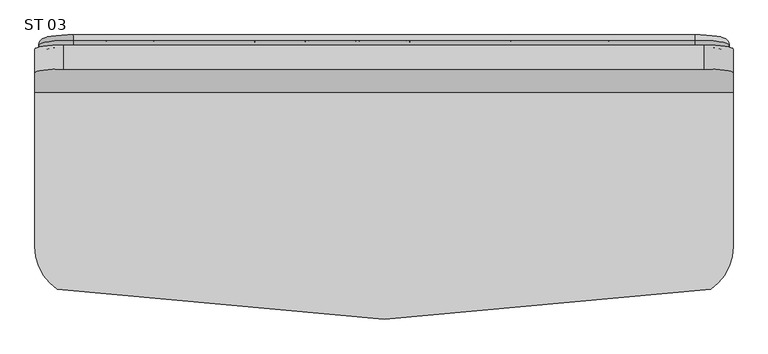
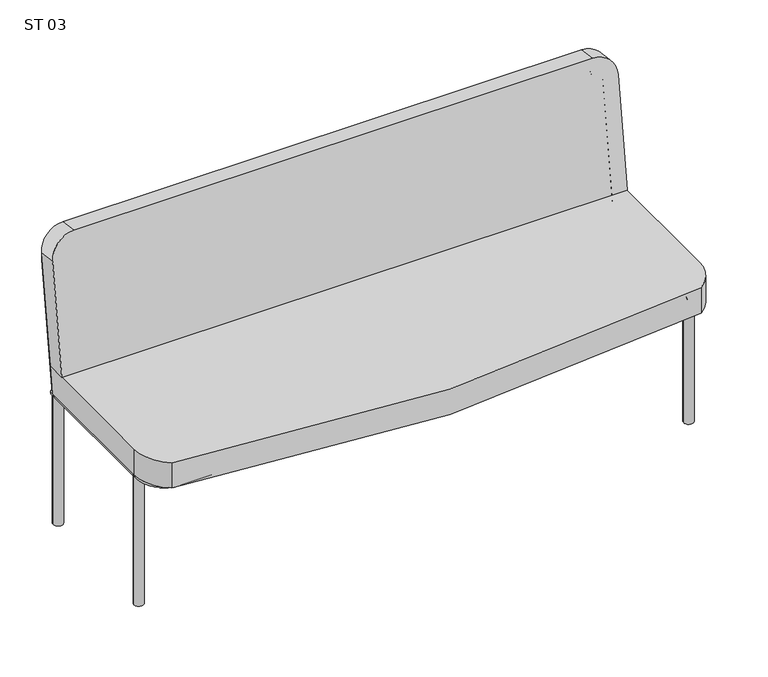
"""IFC4 building model written with IfcOpenShell, lengths in millimetres: furniture geometry, Mobiliário_Mobiliário de Escritório_Sofá - ST 03_Marelli : ST 03."""

import ifcopenshell
import ifcopenshell.guid

model = None  # the IFC model being written
_history = None  # IfcOwnerHistory: only IFC2X3 demands one
_inside = {}  # id of a spatial element -> (the spatial element, [elements in it])
_under = {}  # id of a project, library or spatial element -> (it, [spatial elements below it])
_declared = {}  # id of a project -> (the project, [libraries it declares])
_typed = {}  # id of a type object -> (the type object, [elements of that type])
_made_of = {}  # id of a material, layer set ... -> (it, [elements and type objects made of it])


def new_model(schema):
    """Start an empty IFC model of exactly this schema.

    Asked for "IFC4X3", IfcOpenShell would pick the latest addendum, in which some entities
    have other attributes; the version numbers below select the first issue.
    IFC2X3 requires an IfcOwnerHistory on every rooted entity: one is made here for all.
    """
    global model, _history
    if schema == "IFC4X3":
        model = ifcopenshell.file(schema_version=(4, 3, 0, 0))
    else:
        model = ifcopenshell.file(schema=schema)
    _inside.clear()
    _under.clear()
    _declared.clear()
    _typed.clear()
    _made_of.clear()
    _history = None
    if model.schema == "IFC2X3":
        org = make("IfcOrganization", Name="unknown")
        user = make(
            "IfcPersonAndOrganization",
            ThePerson=make("IfcPerson", FamilyName="unknown"),
            TheOrganization=org,
        )
        app = make(
            "IfcApplication",
            ApplicationDeveloper=org,
            Version="unknown",
            ApplicationFullName="unknown",
            ApplicationIdentifier="unknown",
        )
        _history = make(
            "IfcOwnerHistory",
            OwningUser=user,
            OwningApplication=app,
            ChangeAction="ADDED",
            CreationDate=0,
        )
    return model


def make(cls, **values):
    """One entity of the class cls with the attributes given. An attribute that is None is left unset."""
    return model.create_entity(
        cls, **{name: value for name, value in values.items() if value is not None}
    )


def rooted(cls, **values):
    """An entity with a GlobalId (a new one), such as an element, a storey or a relation."""
    return make(cls, GlobalId=ifcopenshell.guid.new(), OwnerHistory=_history, **values)


def si_unit(unit_type, name, prefix=None):
    """IfcSIUnit, for example si_unit("LENGTHUNIT", "METRE", prefix="MILLI")."""
    return make("IfcSIUnit", UnitType=unit_type, Prefix=prefix, Name=name)


def assignment(units):
    """IfcUnitAssignment: the units of a project."""
    return None if units is None else make("IfcUnitAssignment", Units=units)


def point(xyz):
    """IfcCartesianPoint."""
    return None if xyz is None else make("IfcCartesianPoint", Coordinates=xyz)


def direction(xyz):
    """IfcDirection."""
    return None if xyz is None else make("IfcDirection", DirectionRatios=xyz)


def frame(location, z_axis=None, x_axis=None):
    """IfcAxis2Placement3D, a coordinate frame: its origin and axes. An axis left out is left unset."""
    return make(
        "IfcAxis2Placement3D",
        Location=point(location),
        Axis=direction(z_axis),
        RefDirection=direction(x_axis),
    )


def frame_2d(location, x_axis=None):
    """IfcAxis2Placement2D, a coordinate frame in the plane: its origin and x axis."""
    return make(
        "IfcAxis2Placement2D", Location=point(location), RefDirection=direction(x_axis)
    )


def origin():
    """The frame at (0, 0, 0) with its axes left unset."""
    return frame((0.0, 0.0, 0.0))


def origin_with_axes():
    """The frame at (0, 0, 0) with the z axis (0, 0, 1) and the x axis (1, 0, 0) written out."""
    return frame((0.0, 0.0, 0.0), z_axis=(0.0, 0.0, 1.0), x_axis=(1.0, 0.0, 0.0))


def place(relative_to, where):
    """IfcLocalPlacement: puts the frame where relative to a parent placement (None: the world)."""
    return make(
        "IfcLocalPlacement", PlacementRelTo=relative_to, RelativePlacement=where
    )


def context(
    kind, dimensions, precision=None, world=None, true_north=None, identifier=None
):
    """IfcGeometricRepresentationContext, for example the 3D "Model" context."""
    return make(
        "IfcGeometricRepresentationContext",
        ContextIdentifier=identifier,
        ContextType=kind,
        CoordinateSpaceDimension=dimensions,
        Precision=precision,
        WorldCoordinateSystem=world,
        TrueNorth=true_north,
    )


def project(units=None, contexts=None):
    """IfcProject with its units and contexts."""
    return rooted(
        "IfcProject",
        Name="project",
        RepresentationContexts=contexts,
        UnitsInContext=assignment(units),
    )


def spatial(cls, under=None, at=None, **own):
    """A site, building, storey or space (cls), placed at a placement, below another one or the project."""
    s = rooted(cls, ObjectPlacement=at, **own)
    if under is not None:
        _under.setdefault(under.id(), (under, []))[1].append(s)
    return s


def circle_curve(where, radius):
    """IfcCircle in the frame where."""
    return make("IfcCircle", Position=where, Radius=radius)


def ellipse_curve(where, semi_axis1, semi_axis2):
    """IfcEllipse in the frame where."""
    return make(
        "IfcEllipse", Position=where, SemiAxis1=semi_axis1, SemiAxis2=semi_axis2
    )


def trimmed(basis, trim1, trim2, sense, master):
    """IfcTrimmedCurve: the piece of a basis curve between two trims."""
    return make(
        "IfcTrimmedCurve",
        BasisCurve=basis,
        Trim1=trim1,
        Trim2=trim2,
        SenseAgreement=sense,
        MasterRepresentation=master,
    )


def segment(curve, same_sense, transition):
    """IfcCompositeCurveSegment."""
    return make(
        "IfcCompositeCurveSegment",
        Transition=transition,
        SameSense=same_sense,
        ParentCurve=curve,
    )


def composite_curve(segments, self_intersect=None):
    """IfcCompositeCurve: segments joined end to end."""
    return make("IfcCompositeCurve", Segments=segments, SelfIntersect=self_intersect)


def outline(outer, holes=None, kind="AREA"):
    """IfcArbitraryClosedProfileDef: a profile drawn as a closed curve; with holes, ...WithVoids."""
    if holes is None:
        return make("IfcArbitraryClosedProfileDef", ProfileType=kind, OuterCurve=outer)
    return make(
        "IfcArbitraryProfileDefWithVoids",
        ProfileType=kind,
        OuterCurve=outer,
        InnerCurves=holes,
    )


def extrude(swept, where, along, depth):
    """IfcExtrudedAreaSolid: the profile swept, set in the frame where, extruded along a direction by depth."""
    return make(
        "IfcExtrudedAreaSolid",
        SweptArea=swept,
        Position=where,
        ExtrudedDirection=direction(along),
        Depth=depth,
    )


def shape(context_of_items, identifier, shape_type, items):
    """IfcShapeRepresentation: the items that make up one representation, for example the "Body"."""
    return make(
        "IfcShapeRepresentation",
        ContextOfItems=context_of_items,
        RepresentationIdentifier=identifier,
        RepresentationType=shape_type,
        Items=items,
    )


def source(mapping_origin, context_of_items, identifier, shape_type, items):
    """IfcRepresentationMap: a shape defined once, which mapped items show again and again."""
    return make(
        "IfcRepresentationMap",
        MappingOrigin=mapping_origin,
        MappedRepresentation=shape(context_of_items, identifier, shape_type, items),
    )


def transform(
    local_origin,
    x_axis=None,
    y_axis=None,
    z_axis=None,
    scale=None,
    scale2=None,
    scale3=None,
    uniform=True,
):
    """IfcCartesianTransformationOperator3D, or its non-uniform kind. x_axis, y_axis, z_axis: its Axis1, 2, 3."""
    if uniform:
        return make(
            "IfcCartesianTransformationOperator3D",
            Axis1=direction(x_axis),
            Axis2=direction(y_axis),
            LocalOrigin=point(local_origin),
            Scale=scale,
            Axis3=direction(z_axis),
        )
    return make(
        "IfcCartesianTransformationOperator3DnonUniform",
        Axis1=direction(x_axis),
        Axis2=direction(y_axis),
        LocalOrigin=point(local_origin),
        Scale=scale,
        Axis3=direction(z_axis),
        Scale2=scale2,
        Scale3=scale3,
    )


def mapped(mapping_source, mapping_target):
    """IfcMappedItem: shows the shape of a source again, moved by a transform."""
    return make(
        "IfcMappedItem", MappingSource=mapping_source, MappingTarget=mapping_target
    )


def made_of(thing, what):
    """Note that an element or type object is made of a material, layer set ...; save() writes the relation."""
    if what is not None:
        _made_of.setdefault(what.id(), (what, []))[1].append(thing)
    return thing


def element(
    cls,
    number,
    at=None,
    inside=None,
    cuts=None,
    type_object=None,
    material=None,
    context=None,
    identifier="Body",
    shape_type=None,
    held_by="IfcProductDefinitionShape",
    body=None,
    shapes=None,
    **own,
):
    """One element of the class cls, such as IfcWall. Its Tag is "e" and its number.

    at: its placement. inside: the storey or other place that contains it. cuts: it is an
    opening in that element (IfcRelVoidsElement). A single representation is given by context,
    identifier, shape_type and body (its items); several are given by shapes. held_by: the class
    of the entity that holds the representations. save() writes the other relations.
    """
    e = rooted(cls, Tag="e%d" % number, ObjectPlacement=at, **own)
    if body is not None:
        shapes = [shape(context, identifier, shape_type, body)]
    if shapes is not None:
        e.Representation = make(held_by, Representations=shapes)
    if inside is not None:
        _inside.setdefault(inside.id(), (inside, []))[1].append(e)
    if cuts is not None:
        rooted(
            "IfcRelVoidsElement", RelatingBuildingElement=cuts, RelatedOpeningElement=e
        )
    if type_object is not None:
        _typed.setdefault(type_object.id(), (type_object, []))[1].append(e)
    return made_of(e, material)


def aggregate(whole, parts):
    """IfcRelAggregates: a whole, such as a stair, and the parts it consists of."""
    return rooted("IfcRelAggregates", RelatingObject=whole, RelatedObjects=parts)


def save(model, path):
    """Write the relations noted so far, then the file.

    IfcRelAggregates (storeys below a building ...), IfcRelContainedInSpatialStructure (elements
    in a storey), IfcRelDefinesByType, IfcRelAssociatesMaterial and IfcRelDeclares: one each for
    every whole, place, type object, material and project.
    """
    for whole, parts in _under.values():
        aggregate(whole, parts)
    for where, things in _inside.values():
        rooted(
            "IfcRelContainedInSpatialStructure",
            RelatedElements=things,
            RelatingStructure=where,
        )
    for kind, things in _typed.values():
        rooted("IfcRelDefinesByType", RelatedObjects=things, RelatingType=kind)
    for what, things in _made_of.values():
        rooted("IfcRelAssociatesMaterial", RelatedObjects=things, RelatingMaterial=what)
    for by, libraries in _declared.values():
        rooted("IfcRelDeclares", RelatingContext=by, RelatedDefinitions=libraries)
    model.write(path)


def plane_surface(at):
    """IfcPlane: the flat surface through the origin of the frame at, square to its z axis."""
    return make("IfcPlane", Position=at)


def cylinder_surface(at, radius):
    """IfcCylindricalSurface: all points at the distance radius from the z axis of the frame at."""
    return make("IfcCylindricalSurface", Position=at, Radius=radius)


def revolved_surface(curve, axis_point, axis_direction):
    """IfcSurfaceOfRevolution: the curve turned about the line through axis_point along axis_direction."""
    return make(
        "IfcSurfaceOfRevolution",
        SweptCurve=make("IfcArbitraryOpenProfileDef", ProfileType="CURVE", Curve=curve),
        AxisPosition=make("IfcAxis1Placement", Location=point(axis_point), Axis=direction(axis_direction)),
    )


def extruded_surface(curve, direction_of_extrusion, depth):
    """IfcSurfaceOfLinearExtrusion: the curve pushed along a direction by depth."""
    return make(
        "IfcSurfaceOfLinearExtrusion",
        SweptCurve=make("IfcArbitraryOpenProfileDef", ProfileType="CURVE", Curve=curve),
        ExtrudedDirection=direction(direction_of_extrusion),
        Depth=depth,
    )


def advanced_brep(points, edges, surfaces, faces):
    """IfcAdvancedBrep: a solid bounded by faces that lie on surfaces and meet in shared edges.

    An edge is (start, end): straight between two places in points (the first is 0);
    or (start, end, curve); or (start, end, curve, False) where it runs against its curve.
    A face is (place in surfaces, loops), or (place, loops, False) where it looks against
    its surface's normal. A loop lists edges by number (the first is 1), with a minus sign
    where the edge is run from its end to its start. The first loop is the outer one.
    """
    corners = [point(p) for p in points]
    vertices = [make("IfcVertexPoint", VertexGeometry=c) for c in corners]
    made = []
    for start, end, *more in edges:
        made.append(
            make(
                "IfcEdgeCurve",
                EdgeStart=vertices[start],
                EdgeEnd=vertices[end],
                EdgeGeometry=more[0] if more else make("IfcPolyline", Points=[corners[start], corners[end]]),
                SameSense=more[1] if len(more) > 1 else True,
            )
        )
    hull = []
    for where, loops, *sense in faces:
        bounds = []
        for j, loop in enumerate(loops):
            ring = [make("IfcOrientedEdge", EdgeElement=made[abs(k) - 1], Orientation=k > 0) for k in loop]
            bounds.append(
                make(
                    "IfcFaceOuterBound" if j == 0 else "IfcFaceBound",
                    Bound=make("IfcEdgeLoop", EdgeList=ring),
                    Orientation=True,
                )
            )
        hull.append(make("IfcAdvancedFace", Bounds=bounds, FaceSurface=surfaces[where], SameSense=sense[0] if sense else True))
    return make("IfcAdvancedBrep", Outer=make("IfcClosedShell", CfsFaces=hull))


def st_03_f2b1743f(model_context):
    return source(origin(), model_context, "Body", "SolidModel", [
        advanced_brep(
        [(1397.5, 412.5, 351.5), (1422.5, 437.5, 351.5), (1422.5, 65.0, 351.5), (1397.5, 65.0, 351.5), (1345.0, 12.5, 351.5), (1345.0, -12.5, 351.5), (65.0, -12.5, 351.5), (65.0, 12.5, 351.5), (12.5, 65.0, 351.5), (-12.5, 65.0, 351.5), (-12.5, 437.5, 351.5), (12.5, 412.5, 351.5)],
        [
            (0, 1, ellipse_curve(frame((1410.0, 425.0, 351.5), z_axis=(0.7071067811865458, -0.7071067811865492, 0.0), x_axis=(0.7071067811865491, 0.7071067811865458, 0.0)), 17.6776695, 12.5)),
            (1, 2),
            (2, 3, circle_curve(frame((1410.0, 65.0, 351.5), z_axis=(0.0, 1.0, 0.0), x_axis=(-1.0, 0.0, 0.0)), 12.5)),
            (3, 0),
            (1, 0, ellipse_curve(frame((1410.0, 425.0, 351.5), z_axis=(0.7071067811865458, -0.7071067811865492, 0.0), x_axis=(0.7071067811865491, 0.7071067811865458, 0.0)), 17.6776695, 12.5)),
            (3, 2, circle_curve(frame((1410.0, 65.0, 351.5), z_axis=(0.0, 1.0, 0.0), x_axis=(-1.0, 0.0, 0.0)), 12.5)),
            (4, 3, circle_curve(frame((1345.0, 65.0, 351.5), z_axis=(0.0, 0.0, 1.0), x_axis=(1.0, 0.0, 0.0)), 52.5)),
            (2, 5, circle_curve(frame((1345.0, 65.0, 351.5), z_axis=(0.0, 0.0, -1.0), x_axis=(1.0, 0.0, 0.0)), 77.5)),
            (5, 4, circle_curve(frame((1345.0, 0.0, 351.5), z_axis=(1.0, 0.0, 0.0), x_axis=(0.0, 1.0, 0.0)), 12.5)),
            (4, 5, circle_curve(frame((1345.0, 0.0, 351.5), z_axis=(1.0, 0.0, 0.0), x_axis=(0.0, 1.0, 0.0)), 12.5)),
            (5, 6),
            (6, 7, circle_curve(frame((65.0, 0.0, 351.5), z_axis=(1.0, 0.0, 0.0), x_axis=(0.0, 1.0, 0.0)), 12.5)),
            (7, 4),
            (7, 6, circle_curve(frame((65.0, 0.0, 351.5), z_axis=(1.0, 0.0, 0.0), x_axis=(0.0, 1.0, 0.0)), 12.5)),
            (8, 7, circle_curve(frame((65.0, 65.0, 351.5), z_axis=(0.0, 0.0, 1.0), x_axis=(0.0, -1.0, 0.0)), 52.5)),
            (6, 9, circle_curve(frame((65.0, 65.0, 351.5), z_axis=(0.0, 0.0, -1.0), x_axis=(0.0, -1.0, 0.0)), 77.5)),
            (9, 8, circle_curve(frame((0.0, 65.0, 351.5), z_axis=(0.0, -1.0, 0.0), x_axis=(1.0, 0.0, 0.0)), 12.5)),
            (8, 9, circle_curve(frame((0.0, 65.0, 351.5), z_axis=(0.0, -1.0, 0.0), x_axis=(1.0, 0.0, 0.0)), 12.5)),
            (9, 10),
            (10, 11, ellipse_curve(frame((0.0, 425.0, 351.5), z_axis=(-0.7071067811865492, -0.7071067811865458, 0.0), x_axis=(0.7071067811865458, -0.7071067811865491, 0.0)), 17.6776695, 12.5)),
            (11, 8),
            (11, 10, ellipse_curve(frame((0.0, 425.0, 351.5), z_axis=(-0.7071067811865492, -0.7071067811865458, 0.0), x_axis=(0.7071067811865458, -0.7071067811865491, 0.0)), 17.6776695, 12.5)),
            (10, 1),
            (0, 11),
        ],
        [
            cylinder_surface(frame((1410.0, 425.0, 351.5), z_axis=(0.0, 1.0, 0.0), x_axis=(-1.0, 0.0, 0.0)), 12.5),
            revolved_surface(trimmed(ellipse_curve(frame((1410.0, 65.0, 351.5), z_axis=(0.0, 1.0, 0.0), x_axis=(-1.0, 0.0, 0.0)), 12.5, 12.5), [point((1422.5, 65.0, 351.5))], [point((1397.5, 65.0, 351.5))], True, "CARTESIAN"), (1345.0, 65.0, 0.0), (0.0, 0.0, -1.0)),
            revolved_surface(trimmed(ellipse_curve(frame((1410.0, 65.0, 351.5), z_axis=(0.0, 1.0, 0.0), x_axis=(-1.0, 0.0, 0.0)), 12.5, 12.5), [point((1397.5, 65.0, 351.5))], [point((1422.5, 65.0, 351.5))], True, "CARTESIAN"), (1345.0, 65.0, 0.0), (0.0, 0.0, -1.0)),
            cylinder_surface(frame((1345.0, 0.0, 351.5), z_axis=(1.0, 0.0, 0.0), x_axis=(0.0, 1.0, 0.0)), 12.5),
            revolved_surface(trimmed(ellipse_curve(frame((65.0, 0.0, 351.5), z_axis=(1.0, 0.0, 0.0), x_axis=(0.0, 1.0, 0.0)), 12.5, 12.5), [point((65.0, -12.5, 351.5))], [point((65.0, 12.5, 351.5))], True, "CARTESIAN"), (65.0, 65.0, 0.0), (0.0, 0.0, -1.0)),
            revolved_surface(trimmed(ellipse_curve(frame((65.0, 0.0, 351.5), z_axis=(1.0, 0.0, 0.0), x_axis=(0.0, 1.0, 0.0)), 12.5, 12.5), [point((65.0, 12.5, 351.5))], [point((65.0, -12.5, 351.5))], True, "CARTESIAN"), (65.0, 65.0, 0.0), (0.0, 0.0, -1.0)),
            cylinder_surface(frame((0.0, 65.0, 351.5), z_axis=(0.0, -1.0, 0.0), x_axis=(1.0, 0.0, 0.0)), 12.5),
            cylinder_surface(frame((0.0, 425.0, 351.5), z_axis=(-1.0, 0.0, 0.0), x_axis=(0.0, -1.0, 0.0)), 12.5),
        ],
        [
            (0, [[1, 2, 3, 4]]),
            (0, [[5, -4, 6, -2]]),
            (1, [[7, -3, 8, 9]]),
            (2, [[-8, -6, -7, 10]]),
            (3, [[-9, 11, 12, 13]]),
            (3, [[-10, -13, 14, -11]]),
            (4, [[15, -12, 16, 17]]),
            (5, [[-16, -14, -15, 18]]),
            (6, [[-17, 19, 20, 21]]),
            (6, [[-18, -21, 22, -19]]),
            (7, [[-20, 23, -1, 24]]),
            (7, [[-22, -24, -5, -23]]),
        ],
    ),
        extrude(outline(composite_curve([segment(trimmed(circle_curve(frame_2d((1410.0, 425.0)), 12.5), [point((1397.5, 425.0))], [point((1422.5, 425.0))], False, "CARTESIAN"), True, "CONTINUOUS"), segment(trimmed(circle_curve(frame_2d((1410.0, 425.0)), 12.5), [point((1422.5, 425.0))], [point((1397.5, 425.0))], False, "CARTESIAN"), True, "CONTINUOUS")], self_intersect=False)), origin_with_axes(), (0.0, 0.0, 1.0), 351.5),
        extrude(outline(composite_curve([segment(trimmed(circle_curve(frame_2d((0.0, 425.0)), 12.5), [point((-12.5, 425.0))], [point((12.5, 425.0))], False, "CARTESIAN"), True, "CONTINUOUS"), segment(trimmed(circle_curve(frame_2d((0.0, 425.0)), 12.5), [point((12.5, 425.0))], [point((-12.5, 425.0))], False, "CARTESIAN"), True, "CONTINUOUS")], self_intersect=False)), origin_with_axes(), (0.0, 0.0, 1.0), 351.5),
        extrude(outline(composite_curve([segment(trimmed(circle_curve(frame_2d((1410.0, 66.3272741)), 12.5), [point((1397.5, 66.3272741))], [point((1422.5, 66.3272741))], False, "CARTESIAN"), True, "CONTINUOUS"), segment(trimmed(circle_curve(frame_2d((1410.0, 66.3272741)), 12.5), [point((1422.5, 66.3272741))], [point((1397.5, 66.3272741))], False, "CARTESIAN"), True, "CONTINUOUS")], self_intersect=False)), origin_with_axes(), (0.0, 0.0, 1.0), 351.5),
        extrude(outline(composite_curve([segment(trimmed(circle_curve(frame_2d((0.0, 66.3272741)), 12.5), [point((-12.5, 66.3272741))], [point((12.5, 66.3272741))], False, "CARTESIAN"), True, "CONTINUOUS"), segment(trimmed(circle_curve(frame_2d((0.0, 66.3272741)), 12.5), [point((12.5, 66.3272741))], [point((-12.5, 66.3272741))], False, "CARTESIAN"), True, "CONTINUOUS")], self_intersect=False)), origin_with_axes(), (0.0, 0.0, 1.0), 351.5),
        advanced_brep(
        [(-12.5, 425.0, 351.5), (12.5, 425.0, 351.5), (-12.5, 472.3188543, 688.1911434), (12.5, 472.3188543, 688.1911434), (60.0, 478.9295766, 735.2288766), (60.0, 482.4089041, 759.9855784), (1350.0, 482.4089041, 759.9855784), (1350.0, 478.9295766, 735.2288766), (1397.5, 472.3188543, 688.1911434), (1422.5, 472.3188543, 688.1911434), (1422.5, 425.0, 351.5), (1397.5, 425.0, 351.5)],
        [
            (0, 1, circle_curve(frame((0.0, 425.0, 351.5), z_axis=(0.0, -0.13917310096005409, -0.990268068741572), x_axis=(1.0, 0.0, 0.0)), 12.5)),
            (1, 0, circle_curve(frame((0.0, 425.0, 351.5), z_axis=(0.0, -0.13917310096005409, -0.990268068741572), x_axis=(1.0, 0.0, 0.0)), 12.5)),
            (0, 2),
            (2, 3, circle_curve(frame((0.0, 472.3188543, 688.1911434), z_axis=(0.0, -0.13917310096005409, -0.990268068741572), x_axis=(1.0, 0.0, 0.0)), 12.5)),
            (3, 1),
            (3, 2, circle_curve(frame((0.0, 472.3188543, 688.1911434), z_axis=(0.0, -0.13917310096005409, -0.990268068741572), x_axis=(1.0, 0.0, 0.0)), 12.5)),
            (4, 3, circle_curve(frame((60.0, 472.3188543, 688.1911434), z_axis=(0.0, -0.990268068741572, 0.13917310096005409), x_axis=(-1.0, 0.0, 0.0)), 47.5)),
            (2, 5, circle_curve(frame((60.0, 472.3188543, 688.1911434), z_axis=(0.0, 0.990268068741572, -0.13917310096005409), x_axis=(-1.0, 0.0, 0.0)), 72.5)),
            (5, 4, circle_curve(frame((60.0, 480.6692404, 747.6072275), z_axis=(-1.0, 0.0, 0.0), x_axis=(0.0, -0.13917310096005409, -0.990268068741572)), 12.5)),
            (4, 5, circle_curve(frame((60.0, 480.6692404, 747.6072275), z_axis=(-1.0, 0.0, 0.0), x_axis=(0.0, -0.13917310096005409, -0.990268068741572)), 12.5)),
            (5, 6),
            (6, 7, circle_curve(frame((1350.0, 480.6692404, 747.6072275), z_axis=(-1.0, 0.0, 0.0), x_axis=(0.0, -0.13917310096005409, -0.990268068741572)), 12.5)),
            (7, 4),
            (7, 6, circle_curve(frame((1350.0, 480.6692404, 747.6072275), z_axis=(-1.0, 0.0, 0.0), x_axis=(0.0, -0.13917310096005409, -0.990268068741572)), 12.5)),
            (8, 7, circle_curve(frame((1350.0, 472.3188543, 688.1911434), z_axis=(0.0, -0.990268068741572, 0.13917310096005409), x_axis=(0.0, 0.13917310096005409, 0.990268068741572)), 47.5)),
            (6, 9, circle_curve(frame((1350.0, 472.3188543, 688.1911434), z_axis=(0.0, 0.990268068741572, -0.13917310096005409), x_axis=(0.0, 0.13917310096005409, 0.990268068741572)), 72.5)),
            (9, 8, circle_curve(frame((1410.0, 472.3188543, 688.1911434), z_axis=(0.0, 0.13917310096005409, 0.990268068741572), x_axis=(-1.0000000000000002, 0.0, 0.0)), 12.5)),
            (8, 9, circle_curve(frame((1410.0, 472.3188543, 688.1911434), z_axis=(0.0, 0.13917310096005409, 0.990268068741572), x_axis=(-1.0000000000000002, 0.0, 0.0)), 12.5)),
            (10, 11, circle_curve(frame((1410.0, 425.0, 351.5), z_axis=(0.0, -0.13917310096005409, -0.9902680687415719), x_axis=(-1.0, 0.0, 0.0)), 12.5)),
            (11, 10, circle_curve(frame((1410.0, 425.0, 351.5), z_axis=(0.0, -0.13917310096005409, -0.9902680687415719), x_axis=(-1.0, 0.0, 0.0)), 12.5)),
            (9, 10),
            (11, 8),
        ],
        [
            plane_surface(frame((0.0, 4.1360708, 410.6485679), z_axis=(0.0, -0.13917310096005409, -0.990268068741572), x_axis=(0.0, -0.990268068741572, 0.13917310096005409))),
            cylinder_surface(frame((0.0, 425.0, 351.5), z_axis=(0.0, -0.13917310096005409, -0.990268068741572), x_axis=(1.0, 0.0, 0.0)), 12.5),
            revolved_surface(trimmed(ellipse_curve(frame((0.0, 472.3188543, 688.1911434), z_axis=(0.0, -0.13917310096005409, -0.990268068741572), x_axis=(1.0, 0.0, 0.0)), 12.5, 12.5), [point((-12.5, 472.3188543, 688.1911434))], [point((12.5, 472.3188543, 688.1911434))], True, "CARTESIAN"), (60.0, 51.4549251, 747.3397113), (0.0, 0.990268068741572, -0.13917310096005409)),
            revolved_surface(trimmed(ellipse_curve(frame((0.0, 472.3188543, 688.1911434), z_axis=(0.0, -0.13917310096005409, -0.990268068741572), x_axis=(1.0, 0.0, 0.0)), 12.5, 12.5), [point((12.5, 472.3188543, 688.1911434))], [point((-12.5, 472.3188543, 688.1911434))], True, "CARTESIAN"), (60.0, 51.4549251, 747.3397113), (0.0, 0.990268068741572, -0.13917310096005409)),
            cylinder_surface(frame((60.0, 480.6692404, 747.6072275), z_axis=(-1.0, 0.0, 0.0), x_axis=(0.0, -0.13917310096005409, -0.990268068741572)), 12.5),
            revolved_surface(trimmed(ellipse_curve(frame((1350.0, 480.6692404, 747.6072275), z_axis=(-1.0000000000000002, 0.0, 0.0), x_axis=(0.0, -0.13917310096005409, -0.990268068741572)), 12.5, 12.5), [point((1350.0, 482.4089041, 759.9855784))], [point((1350.0, 478.9295766, 735.2288766))], True, "CARTESIAN"), (1350.0, 51.4549251, 747.3397113), (0.0, 0.990268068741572, -0.13917310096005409)),
            revolved_surface(trimmed(ellipse_curve(frame((1350.0, 480.6692404, 747.6072275), z_axis=(-1.0000000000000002, 0.0, 0.0), x_axis=(0.0, -0.13917310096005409, -0.990268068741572)), 12.5, 12.5), [point((1350.0, 478.9295766, 735.2288766))], [point((1350.0, 482.4089041, 759.9855784))], True, "CARTESIAN"), (1350.0, 51.4549251, 747.3397113), (0.0, 0.990268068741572, -0.13917310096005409)),
            plane_surface(frame((1410.0, 4.1360708, 410.6485679), z_axis=(0.0, -0.13917310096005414, -0.990268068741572), x_axis=(0.0, -0.990268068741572, 0.13917310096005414))),
            cylinder_surface(frame((1410.0, 472.3188543, 688.1911434), z_axis=(0.0, 0.13917310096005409, 0.9902680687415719), x_axis=(-1.0, 0.0, 0.0)), 12.5),
        ],
        [
            (0, [[1, 2]]),
            (1, [[-1, 3, 4, 5]]),
            (1, [[-2, -5, 6, -3]]),
            (2, [[7, -4, 8, 9]]),
            (3, [[-8, -6, -7, 10]]),
            (4, [[-9, 11, 12, 13]]),
            (4, [[-10, -13, 14, -11]]),
            (5, [[15, -12, 16, 17]]),
            (6, [[-16, -14, -15, 18]]),
            (7, [[19, 20]]),
            (8, [[-17, 21, -20, 22]]),
            (8, [[-18, -22, -19, -21]]),
        ],
    ),
        advanced_brep(
        [(1430.0, 373.2866825, 433.0), (1430.0, 423.7780611, 433.0), (1430.0, 463.5119814, 715.7215336), (1430.0, 413.998578, 722.6801887), (-20.0, 413.998578, 722.6801887), (-20.0, 463.5119814, 715.7215336), (-20.0, 423.7780611, 433.0), (-20.0, 373.2866825, 433.0), (1370.0, 422.348964, 782.0962728), (40.0, 422.348964, 782.0962728), (40.0, 471.8623675, 775.1376178), (1370.0, 471.8623675, 775.1376178)],
        [
            (0, 1),
            (1, 2),
            (2, 3),
            (3, 0),
            (4, 5),
            (5, 6),
            (6, 7),
            (7, 4),
            (0, 7),
            (6, 1),
            (3, 8, circle_curve(frame((1370.0, 413.998578, 722.6801887), z_axis=(0.0, -0.9902680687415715, 0.13917310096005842), x_axis=(-1.0, 0.0, 0.0)), 60.0)),
            (8, 9),
            (9, 4, circle_curve(frame((40.0, 413.998578, 722.6801887), z_axis=(0.0, -0.9902680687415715, 0.13917310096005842), x_axis=(1.0, 0.0, 0.0)), 60.0)),
            (5, 10, circle_curve(frame((40.0, 463.5119814, 715.7215336), z_axis=(0.0, 0.9902680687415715, -0.13917310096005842), x_axis=(1.0, 0.0, 0.0)), 60.0)),
            (10, 11),
            (11, 2, circle_curve(frame((1370.0, 463.5119814, 715.7215336), z_axis=(0.0, 0.9902680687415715, -0.13917310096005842), x_axis=(-1.0, 0.0, 0.0)), 60.0)),
            (11, 8),
            (10, 9),
        ],
        [
            plane_surface(frame((1430.0, 423.77933, 433.0), z_axis=(1.0, 0.0, 0.0), x_axis=(0.0, 1.0, 0.0))),
            plane_surface(frame((-20.0, 423.77933, 433.0), z_axis=(-1.0, 0.0, 0.0), x_axis=(0.0, -1.0, 0.0))),
            plane_surface(frame((1430.0, 373.2866825, 433.0), z_axis=(0.0, 0.0, -1.0), x_axis=(-1.0, 0.0, 0.0))),
            plane_surface(frame((1430.0, 374.2646577, 439.958655), z_axis=(0.0, -0.9902680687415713, 0.13917310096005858), x_axis=(-1.0, 0.0, 0.0))),
            plane_surface(frame((1430.0, 418.9765891, 398.8357516), z_axis=(0.0, 0.9902680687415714, -0.13917310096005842), x_axis=(0.0, -0.13917310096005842, -0.9902680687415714))),
            cylinder_surface(frame((1370.0, 463.5119814, 715.7215336), z_axis=(0.0, -0.9902680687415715, 0.13917310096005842), x_axis=(-1.0, 0.0, 0.0)), 60.0),
            plane_surface(frame((1370.0, 422.348964, 782.0962728), z_axis=(0.0, 0.13917310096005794, 0.9902680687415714), x_axis=(0.0, 0.9902680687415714, -0.13917310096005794))),
            cylinder_surface(frame((40.0, 463.5119814, 715.7215336), z_axis=(0.0, -0.9902680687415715, 0.13917310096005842), x_axis=(1.0, 0.0, 0.0)), 60.0),
        ],
        [
            (0, [[1, 2, 3, 4]]),
            (1, [[5, 6, 7, 8]]),
            (2, [[-1, 9, -7, 10]]),
            (3, [[-4, 11, 12, 13, -8, -9]]),
            (4, [[-6, 14, 15, 16, -2, -10]]),
            (5, [[-11, -3, -16, 17]]),
            (6, [[-12, -17, -15, 18]]),
            (7, [[-13, -18, -14, -5]]),
        ],
    ),
        advanced_brep(
        [(1430.0, 414.0807435, 364.0), (1430.0, 423.7780611, 433.0), (1430.0, 53.2866825, 433.0), (1430.0, 53.2866825, 364.0), (-20.0, 423.7780611, 433.0), (-20.0, 414.0807435, 364.0), (-20.0, 53.2866825, 364.0), (-20.0, 53.2866825, 433.0), (26.4720369, -35.1010659, 433.0), (1383.5279631, -35.1010659, 433.0), (1383.5279631, -35.1010659, 364.0), (26.4720369, -35.1010659, 364.0)],
        [
            (0, 1),
            (1, 2),
            (2, 3),
            (3, 0),
            (4, 5),
            (5, 6),
            (6, 7),
            (7, 4),
            (0, 5),
            (4, 1),
            (7, 8, circle_curve(frame((87.2908026, 53.2866825, 433.0), z_axis=(0.0, 0.0, 1.0), x_axis=(-1.0, 0.0, 0.0)), 107.2908026)),
            (8, 9, circle_curve(frame((705.0, 3660.1082789, 433.0), z_axis=(0.0, 0.0, 1.0), x_axis=(1.0, 0.0, 0.0)), 3756.9897922)),
            (9, 2, circle_curve(frame((1322.7091974, 53.2866825, 433.0), z_axis=(0.0, 0.0, 1.0), x_axis=(1.0, 0.0, 0.0)), 107.2908026)),
            (3, 10, circle_curve(frame((1322.7091974, 53.2866825, 364.0), z_axis=(0.0, 0.0, -1.0), x_axis=(1.0, 0.0, 0.0)), 107.2908026)),
            (10, 11, circle_curve(frame((705.0, 3660.1082789, 364.0), z_axis=(0.0, 0.0, -1.0), x_axis=(1.0, 0.0, 0.0)), 3756.9897922)),
            (11, 6, circle_curve(frame((87.2908026, 53.2866825, 364.0), z_axis=(0.0, 0.0, -1.0), x_axis=(-1.0, 0.0, 0.0)), 107.2908026)),
            (11, 8),
            (10, 9),
        ],
        [
            plane_surface(frame((1430.0, 414.0807435, 364.0), z_axis=(1.0000000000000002, 0.0, 0.0), x_axis=(0.0, 0.13917310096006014, 0.9902680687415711))),
            plane_surface(frame((-20.0, 414.0807435, 364.0), z_axis=(-1.0000000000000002, 0.0, 0.0), x_axis=(0.0, -0.13917310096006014, -0.9902680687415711))),
            plane_surface(frame((1430.0, 414.0807435, 364.0), z_axis=(0.0, 0.9902680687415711, -0.13917310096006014), x_axis=(-1.0, 0.0, 0.0))),
            plane_surface(frame((1430.0, 423.7780611, 433.0), z_axis=(0.0, 0.0, 1.0), x_axis=(-1.0, 0.0, 0.0))),
            plane_surface(frame((-20.0, 414.0807435, 364.0), z_axis=(0.0, 0.0, -1.0), x_axis=(1.0, 0.0, 0.0))),
            cylinder_surface(frame((87.2908026, 53.2866825, 364.0), z_axis=(0.0, 0.0, 1.0), x_axis=(-1.0, 0.0, 0.0)), 107.2908026),
            cylinder_surface(frame((705.0, 3660.1082789, 364.0), z_axis=(0.0, 0.0, 1.0), x_axis=(1.0, 0.0, 0.0)), 3756.9897922),
            cylinder_surface(frame((1322.7091974, 53.2866825, 364.0), z_axis=(0.0, 0.0, 1.0), x_axis=(1.0, 0.0, 0.0)), 107.2908026),
        ],
        [
            (0, [[1, 2, 3, 4]]),
            (1, [[5, 6, 7, 8]]),
            (2, [[-1, 9, -5, 10]]),
            (3, [[-2, -10, -8, 11, 12, 13]]),
            (4, [[-4, 14, 15, 16, -6, -9]]),
            (5, [[-11, -7, -16, 17]]),
            (6, [[-12, -17, -15, 18]]),
            (7, [[-13, -18, -14, -3]]),
        ],
    ),
        advanced_brep(
        [(121.0, 481.2780611, 750.0), (129.0, 481.2780611, 750.0), (121.0, 423.7780611, 350.0), (129.0, 423.7780611, 350.0)],
        [
            (0, 1, circle_curve(frame((125.0, 481.2780611, 750.0), z_axis=(0.0, 0.0, 1.0), x_axis=(1.0, 0.0, 0.0)), 4.0)),
            (1, 0, circle_curve(frame((125.0, 481.2780611, 750.0), z_axis=(0.0, 0.0, 1.0), x_axis=(1.0, 0.0, 0.0)), 4.0)),
            (2, 3, circle_curve(frame((125.0, 423.7780611, 350.0), z_axis=(0.0, 0.0, -1.0), x_axis=(1.0, 0.0, 0.0)), 4.0)),
            (3, 2, circle_curve(frame((125.0, 423.7780611, 350.0), z_axis=(0.0, 0.0, -1.0), x_axis=(1.0, 0.0, 0.0)), 4.0)),
            (3, 1),
            (0, 2),
        ],
        [
            plane_surface(frame((125.0, 481.2780611, 750.0), z_axis=(0.0, 0.0, 1.0), x_axis=(0.0, -1.0, 0.0))),
            plane_surface(frame((125.0, 423.7780611, 350.0), z_axis=(0.0, 0.0, -1.0), x_axis=(0.0, -1.0, 0.0))),
            extruded_surface(trimmed(circle_curve(frame((125.0, 423.7780611, 350.0), z_axis=(0.0, 0.0, 1.0), x_axis=(1.0, 0.0, 0.0)), 4.0), [point((121.0, 423.7780611, 350.0))], [point((129.0, 423.7780611, 350.0))], True, "CARTESIAN"), (0.0, 57.5, 400.0), 404.11168010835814),
            extruded_surface(trimmed(circle_curve(frame((125.0, 423.7780611, 350.0), z_axis=(0.0, 0.0, 1.0), x_axis=(1.0, 0.0, 0.0)), 4.0), [point((129.0, 423.7780611, 350.0))], [point((121.0, 423.7780611, 350.0))], True, "CARTESIAN"), (0.0, 57.5, 400.0), 404.11168010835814),
        ],
        [
            (0, [[1, 2]]),
            (1, [[3, 4]]),
            (2, [[-4, 5, -1, 6]]),
            (3, [[-3, -6, -2, -5]]),
        ],
    ),
        advanced_brep(
        [(226.0, 481.2780611, 750.0), (234.0, 481.2780611, 750.0), (226.0, 423.7780611, 350.0), (234.0, 423.7780611, 350.0)],
        [
            (0, 1, circle_curve(frame((230.0, 481.2780611, 750.0), z_axis=(0.0, 0.0, 1.0), x_axis=(1.0, 0.0, 0.0)), 4.0)),
            (1, 0, circle_curve(frame((230.0, 481.2780611, 750.0), z_axis=(0.0, 0.0, 1.0), x_axis=(1.0, 0.0, 0.0)), 4.0)),
            (2, 3, circle_curve(frame((230.0, 423.7780611, 350.0), z_axis=(0.0, 0.0, -1.0), x_axis=(1.0, 0.0, 0.0)), 4.0)),
            (3, 2, circle_curve(frame((230.0, 423.7780611, 350.0), z_axis=(0.0, 0.0, -1.0), x_axis=(1.0, 0.0, 0.0)), 4.0)),
            (3, 1),
            (0, 2),
        ],
        [
            plane_surface(frame((230.0, 481.2780611, 750.0), z_axis=(0.0, 0.0, 1.0), x_axis=(0.0, -1.0, 0.0))),
            plane_surface(frame((230.0, 423.7780611, 350.0), z_axis=(0.0, 0.0, -1.0), x_axis=(0.0, -1.0, 0.0))),
            extruded_surface(trimmed(circle_curve(frame((230.0, 423.7780611, 350.0), z_axis=(0.0, 0.0, 1.0), x_axis=(1.0, 0.0, 0.0)), 4.0), [point((226.0, 423.7780611, 350.0))], [point((234.0, 423.7780611, 350.0))], True, "CARTESIAN"), (0.0, 57.5, 400.0), 404.11168010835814),
            extruded_surface(trimmed(circle_curve(frame((230.0, 423.7780611, 350.0), z_axis=(0.0, 0.0, 1.0), x_axis=(1.0, 0.0, 0.0)), 4.0), [point((234.0, 423.7780611, 350.0))], [point((226.0, 423.7780611, 350.0))], True, "CARTESIAN"), (0.0, 57.5, 400.0), 404.11168010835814),
        ],
        [
            (0, [[1, 2]]),
            (1, [[3, 4]]),
            (2, [[-4, 5, -1, 6]]),
            (3, [[-3, -6, -2, -5]]),
        ],
    ),
        advanced_brep(
        [(331.0, 481.2780611, 750.0), (339.0, 481.2780611, 750.0), (331.0, 423.7780611, 350.0), (339.0, 423.7780611, 350.0)],
        [
            (0, 1, circle_curve(frame((335.0, 481.2780611, 750.0), z_axis=(0.0, 0.0, 1.0), x_axis=(1.0, 0.0, 0.0)), 4.0)),
            (1, 0, circle_curve(frame((335.0, 481.2780611, 750.0), z_axis=(0.0, 0.0, 1.0), x_axis=(1.0, 0.0, 0.0)), 4.0)),
            (2, 3, circle_curve(frame((335.0, 423.7780611, 350.0), z_axis=(0.0, 0.0, -1.0), x_axis=(1.0, 0.0, 0.0)), 4.0)),
            (3, 2, circle_curve(frame((335.0, 423.7780611, 350.0), z_axis=(0.0, 0.0, -1.0), x_axis=(1.0, 0.0, 0.0)), 4.0)),
            (3, 1),
            (0, 2),
        ],
        [
            plane_surface(frame((335.0, 481.2780611, 750.0), z_axis=(0.0, 0.0, 1.0), x_axis=(0.0, -1.0, 0.0))),
            plane_surface(frame((335.0, 423.7780611, 350.0), z_axis=(0.0, 0.0, -1.0), x_axis=(0.0, -1.0, 0.0))),
            extruded_surface(trimmed(circle_curve(frame((335.0, 423.7780611, 350.0), z_axis=(0.0, 0.0, 1.0), x_axis=(1.0, 0.0, 0.0)), 4.0), [point((331.0, 423.7780611, 350.0))], [point((339.0, 423.7780611, 350.0))], True, "CARTESIAN"), (0.0, 57.5, 400.0), 404.11168010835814),
            extruded_surface(trimmed(circle_curve(frame((335.0, 423.7780611, 350.0), z_axis=(0.0, 0.0, 1.0), x_axis=(1.0, 0.0, 0.0)), 4.0), [point((339.0, 423.7780611, 350.0))], [point((331.0, 423.7780611, 350.0))], True, "CARTESIAN"), (0.0, 57.5, 400.0), 404.11168010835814),
        ],
        [
            (0, [[1, 2]]),
            (1, [[3, 4]]),
            (2, [[-4, 5, -1, 6]]),
            (3, [[-3, -6, -2, -5]]),
        ],
    ),
        advanced_brep(
        [(436.0, 481.2780611, 750.0), (444.0, 481.2780611, 750.0), (436.0, 423.7780611, 350.0), (444.0, 423.7780611, 350.0)],
        [
            (0, 1, circle_curve(frame((440.0, 481.2780611, 750.0), z_axis=(0.0, 0.0, 1.0), x_axis=(1.0, 0.0, 0.0)), 4.0)),
            (1, 0, circle_curve(frame((440.0, 481.2780611, 750.0), z_axis=(0.0, 0.0, 1.0), x_axis=(1.0, 0.0, 0.0)), 4.0)),
            (2, 3, circle_curve(frame((440.0, 423.7780611, 350.0), z_axis=(0.0, 0.0, -1.0), x_axis=(1.0, 0.0, 0.0)), 4.0)),
            (3, 2, circle_curve(frame((440.0, 423.7780611, 350.0), z_axis=(0.0, 0.0, -1.0), x_axis=(1.0, 0.0, 0.0)), 4.0)),
            (3, 1),
            (0, 2),
        ],
        [
            plane_surface(frame((440.0, 481.2780611, 750.0), z_axis=(0.0, 0.0, 1.0), x_axis=(0.0, -1.0, 0.0))),
            plane_surface(frame((440.0, 423.7780611, 350.0), z_axis=(0.0, 0.0, -1.0), x_axis=(0.0, -1.0, 0.0))),
            extruded_surface(trimmed(circle_curve(frame((440.0, 423.7780611, 350.0), z_axis=(0.0, 0.0, 1.0), x_axis=(1.0, 0.0, 0.0)), 4.0), [point((436.0, 423.7780611, 350.0))], [point((444.0, 423.7780611, 350.0))], True, "CARTESIAN"), (0.0, 57.5, 400.0), 404.11168010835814),
            extruded_surface(trimmed(circle_curve(frame((440.0, 423.7780611, 350.0), z_axis=(0.0, 0.0, 1.0), x_axis=(1.0, 0.0, 0.0)), 4.0), [point((444.0, 423.7780611, 350.0))], [point((436.0, 423.7780611, 350.0))], True, "CARTESIAN"), (0.0, 57.5, 400.0), 404.11168010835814),
        ],
        [
            (0, [[1, 2]]),
            (1, [[3, 4]]),
            (2, [[-4, 5, -1, 6]]),
            (3, [[-3, -6, -2, -5]]),
        ],
    ),
        advanced_brep(
        [(541.0, 481.2780611, 750.0), (549.0, 481.2780611, 750.0), (541.0, 423.7780611, 350.0), (549.0, 423.7780611, 350.0)],
        [
            (0, 1, circle_curve(frame((545.0, 481.2780611, 750.0), z_axis=(0.0, 0.0, 1.0), x_axis=(1.0, 0.0, 0.0)), 4.0)),
            (1, 0, circle_curve(frame((545.0, 481.2780611, 750.0), z_axis=(0.0, 0.0, 1.0), x_axis=(1.0, 0.0, 0.0)), 4.0)),
            (2, 3, circle_curve(frame((545.0, 423.7780611, 350.0), z_axis=(0.0, 0.0, -1.0), x_axis=(1.0, 0.0, 0.0)), 4.0)),
            (3, 2, circle_curve(frame((545.0, 423.7780611, 350.0), z_axis=(0.0, 0.0, -1.0), x_axis=(1.0, 0.0, 0.0)), 4.0)),
            (3, 1),
            (0, 2),
        ],
        [
            plane_surface(frame((545.0, 481.2780611, 750.0), z_axis=(0.0, 0.0, 1.0), x_axis=(0.0, -1.0, 0.0))),
            plane_surface(frame((545.0, 423.7780611, 350.0), z_axis=(0.0, 0.0, -1.0), x_axis=(0.0, -1.0, 0.0))),
            extruded_surface(trimmed(circle_curve(frame((545.0, 423.7780611, 350.0), z_axis=(0.0, 0.0, 1.0), x_axis=(1.0, 0.0, 0.0)), 4.0), [point((541.0, 423.7780611, 350.0))], [point((549.0, 423.7780611, 350.0))], True, "CARTESIAN"), (0.0, 57.5, 400.0), 404.11168010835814),
            extruded_surface(trimmed(circle_curve(frame((545.0, 423.7780611, 350.0), z_axis=(0.0, 0.0, 1.0), x_axis=(1.0, 0.0, 0.0)), 4.0), [point((549.0, 423.7780611, 350.0))], [point((541.0, 423.7780611, 350.0))], True, "CARTESIAN"), (0.0, 57.5, 400.0), 404.11168010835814),
        ],
        [
            (0, [[1, 2]]),
            (1, [[3, 4]]),
            (2, [[-4, 5, -1, 6]]),
            (3, [[-3, -6, -2, -5]]),
        ],
    ),
        advanced_brep(
        [(969.0, 481.2780611, 750.0), (961.0, 481.2780611, 750.0), (969.0, 423.7780611, 350.0), (961.0, 423.7780611, 350.0)],
        [
            (0, 1, circle_curve(frame((965.0, 481.2780611, 750.0), z_axis=(0.0, 0.0, 1.0), x_axis=(-1.0, 0.0, 0.0)), 4.0)),
            (1, 0, circle_curve(frame((965.0, 481.2780611, 750.0), z_axis=(0.0, 0.0, 1.0), x_axis=(-1.0, 0.0, 0.0)), 4.0)),
            (2, 3, circle_curve(frame((965.0, 423.7780611, 350.0), z_axis=(0.0, 0.0, -1.0), x_axis=(-1.0, 0.0, 0.0)), 4.0)),
            (3, 2, circle_curve(frame((965.0, 423.7780611, 350.0), z_axis=(0.0, 0.0, -1.0), x_axis=(-1.0, 0.0, 0.0)), 4.0)),
            (2, 0),
            (1, 3),
        ],
        [
            plane_surface(frame((965.0, 481.2780611, 750.0), z_axis=(0.0, 0.0, 1.0), x_axis=(0.0, 1.0, 0.0))),
            plane_surface(frame((965.0, 423.7780611, 350.0), z_axis=(0.0, 0.0, -1.0), x_axis=(0.0, 1.0, 0.0))),
            extruded_surface(trimmed(circle_curve(frame((965.0, 423.7780611, 350.0), z_axis=(0.0, 0.0, 1.0), x_axis=(-1.0, 0.0, 0.0)), 4.0), [point((961.0, 423.7780611, 350.0))], [point((969.0, 423.7780611, 350.0))], True, "CARTESIAN"), (0.0, 57.5, 400.0), 404.11168010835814),
            extruded_surface(trimmed(circle_curve(frame((965.0, 423.7780611, 350.0), z_axis=(0.0, 0.0, 1.0), x_axis=(-1.0, 0.0, 0.0)), 4.0), [point((969.0, 423.7780611, 350.0))], [point((961.0, 423.7780611, 350.0))], True, "CARTESIAN"), (0.0, 57.5, 400.0), 404.11168010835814),
        ],
        [
            (0, [[1, 2]]),
            (1, [[3, 4]]),
            (2, [[-3, 5, -2, 6]]),
            (3, [[-4, -6, -1, -5]]),
        ],
    ),
        advanced_brep(
        [(864.0, 481.2780611, 750.0), (856.0, 481.2780611, 750.0), (864.0, 423.7780611, 350.0), (856.0, 423.7780611, 350.0)],
        [
            (0, 1, circle_curve(frame((860.0, 481.2780611, 750.0), z_axis=(0.0, 0.0, 1.0), x_axis=(-1.0, 0.0, 0.0)), 4.0)),
            (1, 0, circle_curve(frame((860.0, 481.2780611, 750.0), z_axis=(0.0, 0.0, 1.0), x_axis=(-1.0, 0.0, 0.0)), 4.0)),
            (2, 3, circle_curve(frame((860.0, 423.7780611, 350.0), z_axis=(0.0, 0.0, -1.0), x_axis=(-1.0, 0.0, 0.0)), 4.0)),
            (3, 2, circle_curve(frame((860.0, 423.7780611, 350.0), z_axis=(0.0, 0.0, -1.0), x_axis=(-1.0, 0.0, 0.0)), 4.0)),
            (2, 0),
            (1, 3),
        ],
        [
            plane_surface(frame((860.0, 481.2780611, 750.0), z_axis=(0.0, 0.0, 1.0), x_axis=(0.0, 1.0, 0.0))),
            plane_surface(frame((860.0, 423.7780611, 350.0), z_axis=(0.0, 0.0, -1.0), x_axis=(0.0, 1.0, 0.0))),
            extruded_surface(trimmed(circle_curve(frame((860.0, 423.7780611, 350.0), z_axis=(0.0, 0.0, 1.0), x_axis=(-1.0, 0.0, 0.0)), 4.0), [point((856.0, 423.7780611, 350.0))], [point((864.0, 423.7780611, 350.0))], True, "CARTESIAN"), (0.0, 57.5, 400.0), 404.11168010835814),
            extruded_surface(trimmed(circle_curve(frame((860.0, 423.7780611, 350.0), z_axis=(0.0, 0.0, 1.0), x_axis=(-1.0, 0.0, 0.0)), 4.0), [point((864.0, 423.7780611, 350.0))], [point((856.0, 423.7780611, 350.0))], True, "CARTESIAN"), (0.0, 57.5, 400.0), 404.11168010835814),
        ],
        [
            (0, [[1, 2]]),
            (1, [[3, 4]]),
            (2, [[-3, 5, -2, 6]]),
            (3, [[-4, -6, -1, -5]]),
        ],
    ),
        advanced_brep(
        [(759.0, 481.2780611, 750.0), (751.0, 481.2780611, 750.0), (759.0, 423.7780611, 350.0), (751.0, 423.7780611, 350.0)],
        [
            (0, 1, circle_curve(frame((755.0, 481.2780611, 750.0), z_axis=(0.0, 0.0, 1.0), x_axis=(-1.0, 0.0, 0.0)), 4.0)),
            (1, 0, circle_curve(frame((755.0, 481.2780611, 750.0), z_axis=(0.0, 0.0, 1.0), x_axis=(-1.0, 0.0, 0.0)), 4.0)),
            (2, 3, circle_curve(frame((755.0, 423.7780611, 350.0), z_axis=(0.0, 0.0, -1.0), x_axis=(-1.0, 0.0, 0.0)), 4.0)),
            (3, 2, circle_curve(frame((755.0, 423.7780611, 350.0), z_axis=(0.0, 0.0, -1.0), x_axis=(-1.0, 0.0, 0.0)), 4.0)),
            (2, 0),
            (1, 3),
        ],
        [
            plane_surface(frame((755.0, 481.2780611, 750.0), z_axis=(0.0, 0.0, 1.0), x_axis=(0.0, 1.0, 0.0))),
            plane_surface(frame((755.0, 423.7780611, 350.0), z_axis=(0.0, 0.0, -1.0), x_axis=(0.0, 1.0, 0.0))),
            extruded_surface(trimmed(circle_curve(frame((755.0, 423.7780611, 350.0), z_axis=(0.0, 0.0, 1.0), x_axis=(-1.0, 0.0, 0.0)), 4.0), [point((751.0, 423.7780611, 350.0))], [point((759.0, 423.7780611, 350.0))], True, "CARTESIAN"), (0.0, 57.5, 400.0), 404.11168010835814),
            extruded_surface(trimmed(circle_curve(frame((755.0, 423.7780611, 350.0), z_axis=(0.0, 0.0, 1.0), x_axis=(-1.0, 0.0, 0.0)), 4.0), [point((759.0, 423.7780611, 350.0))], [point((751.0, 423.7780611, 350.0))], True, "CARTESIAN"), (0.0, 57.5, 400.0), 404.11168010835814),
        ],
        [
            (0, [[1, 2]]),
            (1, [[3, 4]]),
            (2, [[-3, 5, -2, 6]]),
            (3, [[-4, -6, -1, -5]]),
        ],
    ),
        advanced_brep(
        [(654.0, 481.2780611, 750.0), (646.0, 481.2780611, 750.0), (654.0, 423.7780611, 350.0), (646.0, 423.7780611, 350.0)],
        [
            (0, 1, circle_curve(frame((650.0, 481.2780611, 750.0), z_axis=(0.0, 0.0, 1.0), x_axis=(-1.0, 0.0, 0.0)), 4.0)),
            (1, 0, circle_curve(frame((650.0, 481.2780611, 750.0), z_axis=(0.0, 0.0, 1.0), x_axis=(-1.0, 0.0, 0.0)), 4.0)),
            (2, 3, circle_curve(frame((650.0, 423.7780611, 350.0), z_axis=(0.0, 0.0, -1.0), x_axis=(-1.0, 0.0, 0.0)), 4.0)),
            (3, 2, circle_curve(frame((650.0, 423.7780611, 350.0), z_axis=(0.0, 0.0, -1.0), x_axis=(-1.0, 0.0, 0.0)), 4.0)),
            (2, 0),
            (1, 3),
        ],
        [
            plane_surface(frame((650.0, 481.2780611, 750.0), z_axis=(0.0, 0.0, 1.0), x_axis=(0.0, 1.0, 0.0))),
            plane_surface(frame((650.0, 423.7780611, 350.0), z_axis=(0.0, 0.0, -1.0), x_axis=(0.0, 1.0, 0.0))),
            extruded_surface(trimmed(circle_curve(frame((650.0, 423.7780611, 350.0), z_axis=(0.0, 0.0, 1.0), x_axis=(-1.0, 0.0, 0.0)), 4.0), [point((646.0, 423.7780611, 350.0))], [point((654.0, 423.7780611, 350.0))], True, "CARTESIAN"), (0.0, 57.5, 400.0), 404.11168010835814),
            extruded_surface(trimmed(circle_curve(frame((650.0, 423.7780611, 350.0), z_axis=(0.0, 0.0, 1.0), x_axis=(-1.0, 0.0, 0.0)), 4.0), [point((654.0, 423.7780611, 350.0))], [point((646.0, 423.7780611, 350.0))], True, "CARTESIAN"), (0.0, 57.5, 400.0), 404.11168010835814),
        ],
        [
            (0, [[1, 2]]),
            (1, [[3, 4]]),
            (2, [[-3, 5, -2, 6]]),
            (3, [[-4, -6, -1, -5]]),
        ],
    ),
        advanced_brep(
        [(1066.0, 481.2780611, 750.0), (1074.0, 481.2780611, 750.0), (1066.0, 423.7780611, 350.0), (1074.0, 423.7780611, 350.0)],
        [
            (0, 1, circle_curve(frame((1070.0, 481.2780611, 750.0), z_axis=(0.0, 0.0, 1.0), x_axis=(1.0, 0.0, 0.0)), 4.0)),
            (1, 0, circle_curve(frame((1070.0, 481.2780611, 750.0), z_axis=(0.0, 0.0, 1.0), x_axis=(1.0, 0.0, 0.0)), 4.0)),
            (2, 3, circle_curve(frame((1070.0, 423.7780611, 350.0), z_axis=(0.0, 0.0, -1.0), x_axis=(1.0, 0.0, 0.0)), 4.0)),
            (3, 2, circle_curve(frame((1070.0, 423.7780611, 350.0), z_axis=(0.0, 0.0, -1.0), x_axis=(1.0, 0.0, 0.0)), 4.0)),
            (3, 1),
            (0, 2),
        ],
        [
            plane_surface(frame((1070.0, 481.2780611, 750.0), z_axis=(0.0, 0.0, 1.0), x_axis=(0.0, -1.0, 0.0))),
            plane_surface(frame((1070.0, 423.7780611, 350.0), z_axis=(0.0, 0.0, -1.0), x_axis=(0.0, -1.0, 0.0))),
            extruded_surface(trimmed(circle_curve(frame((1070.0, 423.7780611, 350.0), z_axis=(0.0, 0.0, 1.0), x_axis=(1.0, 0.0, 0.0)), 4.0), [point((1066.0, 423.7780611, 350.0))], [point((1074.0, 423.7780611, 350.0))], True, "CARTESIAN"), (0.0, 57.5, 400.0), 404.11168010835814),
            extruded_surface(trimmed(circle_curve(frame((1070.0, 423.7780611, 350.0), z_axis=(0.0, 0.0, 1.0), x_axis=(1.0, 0.0, 0.0)), 4.0), [point((1074.0, 423.7780611, 350.0))], [point((1066.0, 423.7780611, 350.0))], True, "CARTESIAN"), (0.0, 57.5, 400.0), 404.11168010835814),
        ],
        [
            (0, [[1, 2]]),
            (1, [[3, 4]]),
            (2, [[-4, 5, -1, 6]]),
            (3, [[-3, -6, -2, -5]]),
        ],
    ),
        advanced_brep(
        [(1171.0, 481.2780611, 750.0), (1179.0, 481.2780611, 750.0), (1171.0, 423.7780611, 350.0), (1179.0, 423.7780611, 350.0)],
        [
            (0, 1, circle_curve(frame((1175.0, 481.2780611, 750.0), z_axis=(0.0, 0.0, 1.0), x_axis=(1.0, 0.0, 0.0)), 4.0)),
            (1, 0, circle_curve(frame((1175.0, 481.2780611, 750.0), z_axis=(0.0, 0.0, 1.0), x_axis=(1.0, 0.0, 0.0)), 4.0)),
            (2, 3, circle_curve(frame((1175.0, 423.7780611, 350.0), z_axis=(0.0, 0.0, -1.0), x_axis=(1.0, 0.0, 0.0)), 4.0)),
            (3, 2, circle_curve(frame((1175.0, 423.7780611, 350.0), z_axis=(0.0, 0.0, -1.0), x_axis=(1.0, 0.0, 0.0)), 4.0)),
            (3, 1),
            (0, 2),
        ],
        [
            plane_surface(frame((1175.0, 481.2780611, 750.0), z_axis=(0.0, 0.0, 1.0), x_axis=(0.0, -1.0, 0.0))),
            plane_surface(frame((1175.0, 423.7780611, 350.0), z_axis=(0.0, 0.0, -1.0), x_axis=(0.0, -1.0, 0.0))),
            extruded_surface(trimmed(circle_curve(frame((1175.0, 423.7780611, 350.0), z_axis=(0.0, 0.0, 1.0), x_axis=(1.0, 0.0, 0.0)), 4.0), [point((1171.0, 423.7780611, 350.0))], [point((1179.0, 423.7780611, 350.0))], True, "CARTESIAN"), (0.0, 57.5, 400.0), 404.11168010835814),
            extruded_surface(trimmed(circle_curve(frame((1175.0, 423.7780611, 350.0), z_axis=(0.0, 0.0, 1.0), x_axis=(1.0, 0.0, 0.0)), 4.0), [point((1179.0, 423.7780611, 350.0))], [point((1171.0, 423.7780611, 350.0))], True, "CARTESIAN"), (0.0, 57.5, 400.0), 404.11168010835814),
        ],
        [
            (0, [[1, 2]]),
            (1, [[3, 4]]),
            (2, [[-4, 5, -1, 6]]),
            (3, [[-3, -6, -2, -5]]),
        ],
    ),
        advanced_brep(
        [(1276.0, 481.2780611, 750.0), (1284.0, 481.2780611, 750.0), (1276.0, 423.7780611, 350.0), (1284.0, 423.7780611, 350.0)],
        [
            (0, 1, circle_curve(frame((1280.0, 481.2780611, 750.0), z_axis=(0.0, 0.0, 1.0), x_axis=(1.0, 0.0, 0.0)), 4.0)),
            (1, 0, circle_curve(frame((1280.0, 481.2780611, 750.0), z_axis=(0.0, 0.0, 1.0), x_axis=(1.0, 0.0, 0.0)), 4.0)),
            (2, 3, circle_curve(frame((1280.0, 423.7780611, 350.0), z_axis=(0.0, 0.0, -1.0), x_axis=(1.0, 0.0, 0.0)), 4.0)),
            (3, 2, circle_curve(frame((1280.0, 423.7780611, 350.0), z_axis=(0.0, 0.0, -1.0), x_axis=(1.0, 0.0, 0.0)), 4.0)),
            (3, 1),
            (0, 2),
        ],
        [
            plane_surface(frame((1280.0, 481.2780611, 750.0), z_axis=(0.0, 0.0, 1.0), x_axis=(0.0, -1.0, 0.0))),
            plane_surface(frame((1280.0, 423.7780611, 350.0), z_axis=(0.0, 0.0, -1.0), x_axis=(0.0, -1.0, 0.0))),
            extruded_surface(trimmed(circle_curve(frame((1280.0, 423.7780611, 350.0), z_axis=(0.0, 0.0, 1.0), x_axis=(1.0, 0.0, 0.0)), 4.0), [point((1276.0, 423.7780611, 350.0))], [point((1284.0, 423.7780611, 350.0))], True, "CARTESIAN"), (0.0, 57.5, 400.0), 404.11168010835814),
            extruded_surface(trimmed(circle_curve(frame((1280.0, 423.7780611, 350.0), z_axis=(0.0, 0.0, 1.0), x_axis=(1.0, 0.0, 0.0)), 4.0), [point((1284.0, 423.7780611, 350.0))], [point((1276.0, 423.7780611, 350.0))], True, "CARTESIAN"), (0.0, 57.5, 400.0), 404.11168010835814),
        ],
        [
            (0, [[1, 2]]),
            (1, [[3, 4]]),
            (2, [[-4, 5, -1, 6]]),
            (3, [[-3, -6, -2, -5]]),
        ],
    ),
    ])


if __name__ == "__main__":
    model = new_model("IFC4")
    model_context = context("Model", 3, world=origin())
    ifc_project = project(units=[si_unit("LENGTHUNIT", "METRE", prefix="MILLI")], contexts=[model_context])
    site = spatial("IfcSite", under=ifc_project)
    building = spatial("IfcBuilding", under=site)
    placement = place(None, origin())
    st_03_shape = st_03_f2b1743f(model_context)
    element("IfcFurniture", 1, ObjectType="Mobiliário_Mobiliário de Escritório_Sofá - ST 03_Marelli : ST 03", at=placement, inside=building, context=model_context, shape_type="MappedRepresentation", body=[
        mapped(st_03_shape, transform((0.0, 0.0, 0.0), x_axis=(1.0, 0.0, 0.0), y_axis=(0.0, 1.0, 0.0), z_axis=(0.0, 0.0, 1.0))),
    ])
    save(model, "model.ifc")
